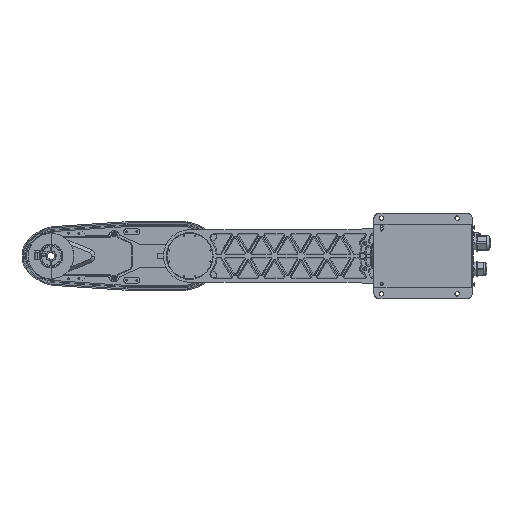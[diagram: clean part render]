
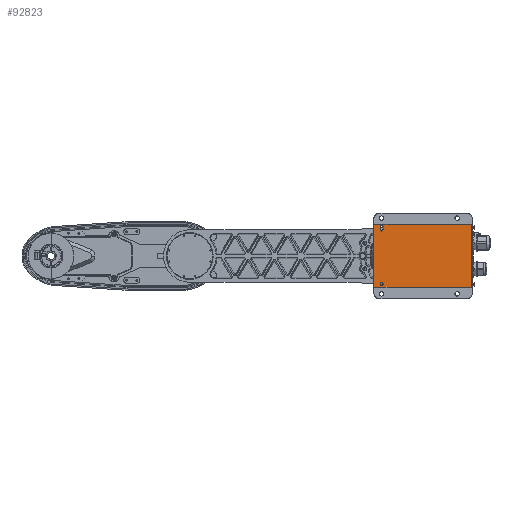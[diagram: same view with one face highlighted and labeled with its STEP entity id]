
A CAD part, front view. The second image highlights one B-rep face of the part: STEP entity #92823.
In plain terms, the highlighted planar face has unit normal (0, -1, 0).
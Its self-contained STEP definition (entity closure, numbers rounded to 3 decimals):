
#727 = ORIENTED_EDGE ( 'NONE', *, *, #17382, .T. ) ;
#2271 = CARTESIAN_POINT ( 'NONE',  ( -60., 1., -61.5 ) ) ;
#2329 = ORIENTED_EDGE ( 'NONE', *, *, #43326, .F. ) ;
#5219 = LINE ( 'NONE', #74326, #12563 ) ;
#9995 = CARTESIAN_POINT ( 'NONE',  ( -45., 1., 49.5 ) ) ;
#10059 = CARTESIAN_POINT ( 'NONE',  ( -45., 1., 57.5 ) ) ;
#10630 = EDGE_CURVE ( 'NONE', #63082, #11030, #98199, .T. ) ;
#11030 = VERTEX_POINT ( 'NONE', #67696 ) ;
#11839 = CARTESIAN_POINT ( 'NONE',  ( 135., 1., 61.5 ) ) ;
#12310 = DIRECTION ( 'NONE',  ( -1., 0., 0. ) ) ;
#12464 = CARTESIAN_POINT ( 'NONE',  ( -42., 1., 57.5 ) ) ;
#12563 = VECTOR ( 'NONE', #57354, 1000. ) ;
#14717 = AXIS2_PLACEMENT_3D ( 'NONE', #10059, #27608, #12310 ) ;
#15830 = EDGE_CURVE ( 'NONE', #92265, #97167, #81614, .T. ) ;
#17382 = EDGE_CURVE ( 'NONE', #29978, #19273, #59203, .T. ) ;
#18834 = DIRECTION ( 'NONE',  ( 0., 1., 0. ) ) ;
#19273 = VERTEX_POINT ( 'NONE', #54900 ) ;
#20630 = DIRECTION ( 'NONE',  ( 0., 0., -1. ) ) ;
#20899 = FACE_OUTER_BOUND ( 'NONE', #39679, .T. ) ;
#21229 = CARTESIAN_POINT ( 'NONE',  ( -60., 1., 61.5 ) ) ;
#21287 = AXIS2_PLACEMENT_3D ( 'NONE', #61296, #18834, #27869 ) ;
#21945 = CARTESIAN_POINT ( 'NONE',  ( -48., 1., 52.5 ) ) ;
#22401 = VERTEX_POINT ( 'NONE', #62982 ) ;
#22815 = AXIS2_PLACEMENT_3D ( 'NONE', #27523, #42823, #35405 ) ;
#23130 = VECTOR ( 'NONE', #108137, 1000. ) ;
#23303 = EDGE_CURVE ( 'NONE', #92265, #109539, #103755, .T. ) ;
#23473 = ORIENTED_EDGE ( 'NONE', *, *, #10630, .T. ) ;
#27523 = CARTESIAN_POINT ( 'NONE',  ( -45., 1., -55. ) ) ;
#27608 = DIRECTION ( 'NONE',  ( 0., 1., 0. ) ) ;
#27869 = DIRECTION ( 'NONE',  ( 0., 0., -1. ) ) ;
#28829 = PLANE ( 'NONE',  #39582 ) ;
#29834 = DIRECTION ( 'NONE',  ( 0., 1., 0. ) ) ;
#29978 = VERTEX_POINT ( 'NONE', #50132 ) ;
#35405 = DIRECTION ( 'NONE',  ( 0., 0., -1. ) ) ;
#39053 = LINE ( 'NONE', #73640, #23130 ) ;
#39582 = AXIS2_PLACEMENT_3D ( 'NONE', #11839, #105797, #53192 ) ;
#39679 = EDGE_LOOP ( 'NONE', ( #39702, #83662, #2329, #61656 ) ) ;
#39702 = ORIENTED_EDGE ( 'NONE', *, *, #15830, .F. ) ;
#42823 = DIRECTION ( 'NONE',  ( 0., 1., 0. ) ) ;
#43326 = EDGE_CURVE ( 'NONE', #22401, #109539, #82936, .T. ) ;
#44097 = FACE_BOUND ( 'NONE', #70936, .T. ) ;
#44354 = CIRCLE ( 'NONE', #94977, 3. ) ;
#46537 = DIRECTION ( 'NONE',  ( 0., 1., 0. ) ) ;
#48188 = ORIENTED_EDGE ( 'NONE', *, *, #94620, .T. ) ;
#49833 = EDGE_CURVE ( 'NONE', #11030, #66825, #44354, .T. ) ;
#50132 = CARTESIAN_POINT ( 'NONE',  ( -45., 1., -58. ) ) ;
#52802 = VECTOR ( 'NONE', #52819, 1000. ) ;
#52819 = DIRECTION ( 'NONE',  ( 0., 0., 1. ) ) ;
#53192 = DIRECTION ( 'NONE',  ( 1., 0., 0. ) ) ;
#53803 = EDGE_CURVE ( 'NONE', #97167, #22401, #5219, .T. ) ;
#54900 = CARTESIAN_POINT ( 'NONE',  ( -45., 1., -52. ) ) ;
#55576 = CARTESIAN_POINT ( 'NONE',  ( 135., 1., -61.5 ) ) ;
#56138 = DIRECTION ( 'NONE',  ( -1., 0., 0. ) ) ;
#57012 = DIRECTION ( 'NONE',  ( 0., 0., -1. ) ) ;
#57354 = DIRECTION ( 'NONE',  ( 0., 0., 1. ) ) ;
#57647 = ORIENTED_EDGE ( 'NONE', *, *, #83274, .T. ) ;
#59203 = CIRCLE ( 'NONE', #22815, 3. ) ;
#61296 = CARTESIAN_POINT ( 'NONE',  ( -45., 1., 52.5 ) ) ;
#61656 = ORIENTED_EDGE ( 'NONE', *, *, #53803, .F. ) ;
#62982 = CARTESIAN_POINT ( 'NONE',  ( -60., 1., 61.5 ) ) ;
#63082 = VERTEX_POINT ( 'NONE', #12464 ) ;
#63782 = CARTESIAN_POINT ( 'NONE',  ( -48., 1., 57.5 ) ) ;
#66067 = CARTESIAN_POINT ( 'NONE',  ( 135., 1., -61.5 ) ) ;
#66800 = VERTEX_POINT ( 'NONE', #63782 ) ;
#66825 = VERTEX_POINT ( 'NONE', #9995 ) ;
#67696 = CARTESIAN_POINT ( 'NONE',  ( -42., 1., 52.5 ) ) ;
#67915 = VECTOR ( 'NONE', #82381, 1000. ) ;
#70936 = EDGE_LOOP ( 'NONE', ( #727, #95231 ) ) ;
#73640 = CARTESIAN_POINT ( 'NONE',  ( -48., 1., 52.5 ) ) ;
#74326 = CARTESIAN_POINT ( 'NONE',  ( -60., 1., -61.5 ) ) ;
#75536 = CIRCLE ( 'NONE', #111671, 3. ) ;
#81124 = DIRECTION ( 'NONE',  ( 0., 0., 1. ) ) ;
#81614 = LINE ( 'NONE', #55576, #110212 ) ;
#81682 = CARTESIAN_POINT ( 'NONE',  ( -45., 1., -55. ) ) ;
#82381 = DIRECTION ( 'NONE',  ( 1., 0., 0. ) ) ;
#82936 = LINE ( 'NONE', #21229, #67915 ) ;
#83274 = EDGE_CURVE ( 'NONE', #66825, #97664, #99012, .T. ) ;
#83393 = CARTESIAN_POINT ( 'NONE',  ( 135., 1., 61.5 ) ) ;
#83662 = ORIENTED_EDGE ( 'NONE', *, *, #23303, .T. ) ;
#85595 = ORIENTED_EDGE ( 'NONE', *, *, #49833, .T. ) ;
#90665 = CIRCLE ( 'NONE', #14717, 3. ) ;
#92265 = VERTEX_POINT ( 'NONE', #66067 ) ;
#92823 = ADVANCED_FACE ( 'NONE', ( #20899, #44097, #96793 ), #28829, .F. ) ;
#94620 = EDGE_CURVE ( 'NONE', #66800, #63082, #90665, .T. ) ;
#94977 = AXIS2_PLACEMENT_3D ( 'NONE', #109580, #29834, #57012 ) ;
#95231 = ORIENTED_EDGE ( 'NONE', *, *, #105781, .T. ) ;
#95505 = VECTOR ( 'NONE', #20630, 1000. ) ;
#95864 = CARTESIAN_POINT ( 'NONE',  ( 135., 1., -61.5 ) ) ;
#96793 = FACE_BOUND ( 'NONE', #111853, .T. ) ;
#97167 = VERTEX_POINT ( 'NONE', #2271 ) ;
#97654 = CARTESIAN_POINT ( 'NONE',  ( -42., 1., 57.5 ) ) ;
#97664 = VERTEX_POINT ( 'NONE', #21945 ) ;
#98199 = LINE ( 'NONE', #97654, #95505 ) ;
#99012 = CIRCLE ( 'NONE', #21287, 3. ) ;
#103755 = LINE ( 'NONE', #95864, #52802 ) ;
#105781 = EDGE_CURVE ( 'NONE', #19273, #29978, #75536, .T. ) ;
#105797 = DIRECTION ( 'NONE',  ( 0., 1., 0. ) ) ;
#108137 = DIRECTION ( 'NONE',  ( 0., 0., 1. ) ) ;
#109539 = VERTEX_POINT ( 'NONE', #83393 ) ;
#109580 = CARTESIAN_POINT ( 'NONE',  ( -45., 1., 52.5 ) ) ;
#109971 = EDGE_CURVE ( 'NONE', #97664, #66800, #39053, .T. ) ;
#110212 = VECTOR ( 'NONE', #56138, 1000. ) ;
#111671 = AXIS2_PLACEMENT_3D ( 'NONE', #81682, #46537, #81124 ) ;
#111793 = ORIENTED_EDGE ( 'NONE', *, *, #109971, .T. ) ;
#111853 = EDGE_LOOP ( 'NONE', ( #85595, #57647, #111793, #48188, #23473 ) ) ;
